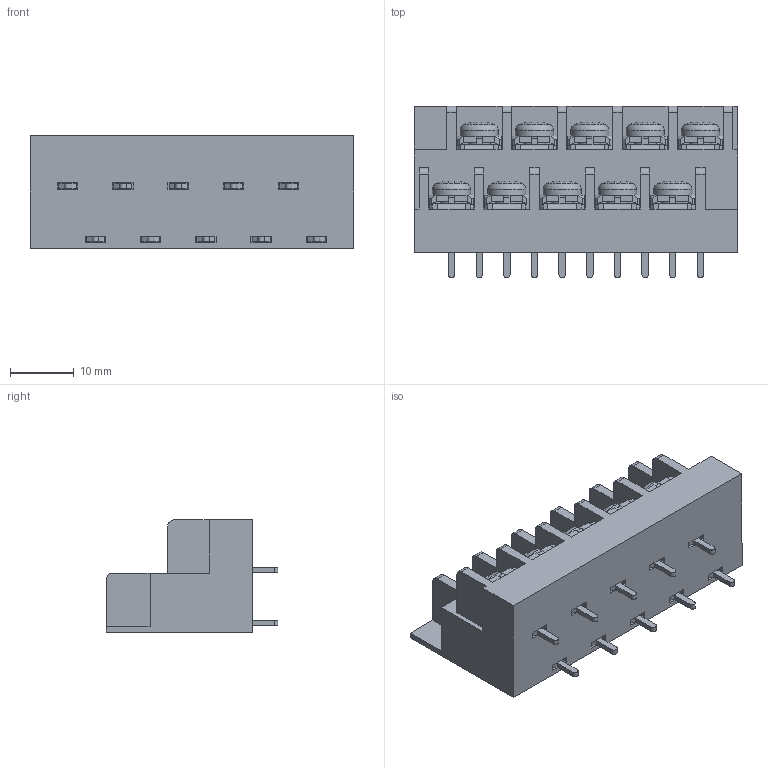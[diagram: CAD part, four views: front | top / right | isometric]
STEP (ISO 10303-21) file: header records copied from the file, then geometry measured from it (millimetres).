
FILE_DESCRIPTION(/* description */ ('Alibre Inc.'),/* implementation_level */ '2;1');
FILE_NAME(/* name */ 'export-28C74D92-DC3D-49BC-BA65-408ABDAA175A',/* time_stamp */ '2021-02-09T10:56:35+09:00',/* author */ (''),/* organization */ (''),/* preprocessor_version */ 'ST-DEVELOPER v17',/* originating_system */ 'Alibre',/* authorisation */ '');
FILE_SCHEMA (('CONFIG_CONTROL_DESIGN'));
Length unit declared in the file: millimetre
Bounding box: 50.85 x 27 x 17.7 mm (x, y, z)
Volume: 13044.7 mm3; surface area: 8850.8 mm2
Topology: 1 solids, 27 shells, 1802 faces, 4514 edges, 2846 vertices
Faces by surface type: plane 1290, bspline 290, cylinder 92, extrusion 40, cone 40, torus 30, sphere 20
Full cylindrical faces by diameter (mm): 3.5 x20, 4.5 x10, 5 x10, 6 x10
Entity records: 56061 total; most frequent: CARTESIAN_POINT 17917, ORIENTED_EDGE 8788, DIRECTION 5537, EDGE_CURVE 4394, VECTOR 3118, LINE 3098, VERTEX_POINT 2806, EDGE_LOOP 1990
